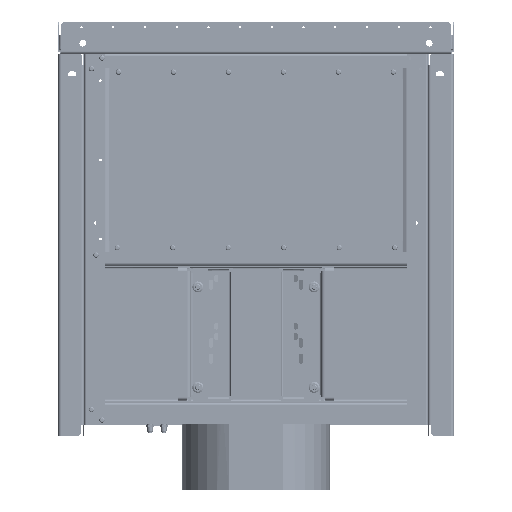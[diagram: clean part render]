
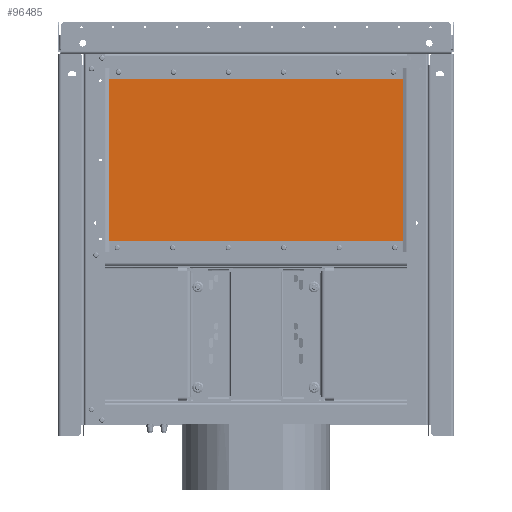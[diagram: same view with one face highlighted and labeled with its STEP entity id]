
A CAD part, front view. The second image highlights one B-rep face of the part: STEP entity #96485.
In plain terms, the highlighted planar face has unit normal (0, -1, 0) as drawn and (0, 1, 0) by its records, which use the part's own axes.
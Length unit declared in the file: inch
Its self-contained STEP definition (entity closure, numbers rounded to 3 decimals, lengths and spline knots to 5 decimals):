
#96370=DIRECTION('',(1.,0.,0.));
#96371=VECTOR('',#96370,15.4);
#96372=CARTESIAN_POINT('',(-7.7,1.93,14.1));
#96373=LINE('',#96372,#96371);
#96374=DIRECTION('',(0.,0.,1.));
#96375=VECTOR('',#96374,28.2);
#96376=CARTESIAN_POINT('',(-7.7,1.93,-14.1));
#96377=LINE('',#96376,#96375);
#96378=DIRECTION('',(-1.,0.,0.));
#96379=VECTOR('',#96378,15.4);
#96380=CARTESIAN_POINT('',(7.7,1.93,-14.1));
#96381=LINE('',#96380,#96379);
#96382=DIRECTION('',(0.,0.,-1.));
#96383=VECTOR('',#96382,28.2);
#96384=CARTESIAN_POINT('',(7.7,1.93,14.1));
#96385=LINE('',#96384,#96383);
#96394=CARTESIAN_POINT('',(-7.7,1.93,14.1));
#96395=CARTESIAN_POINT('',(7.7,1.93,14.1));
#96396=VERTEX_POINT('',#96394);
#96397=VERTEX_POINT('',#96395);
#96398=CARTESIAN_POINT('',(7.7,1.93,-14.1));
#96399=VERTEX_POINT('',#96398);
#96400=CARTESIAN_POINT('',(-7.7,1.93,-14.1));
#96401=VERTEX_POINT('',#96400);
#96474=CARTESIAN_POINT('',(0.,1.93,0.));
#96475=DIRECTION('',(0.,1.,0.));
#96476=DIRECTION('',(1.,0.,0.));
#96477=AXIS2_PLACEMENT_3D('',#96474,#96475,#96476);
#96478=PLANE('',#96477);
#96479=ORIENTED_EDGE('',*,*,#96426,.F.);
#96480=ORIENTED_EDGE('',*,*,#96441,.F.);
#96481=ORIENTED_EDGE('',*,*,#96455,.F.);
#96482=ORIENTED_EDGE('',*,*,#96468,.F.);
#96483=EDGE_LOOP('',(#96479,#96480,#96481,#96482));
#96484=FACE_OUTER_BOUND('',#96483,.F.);
#96485=ADVANCED_FACE('',(#96484),#96478,.T.);
#96426=EDGE_CURVE('',#96396,#96397,#96373,.T.);
#96441=EDGE_CURVE('',#96401,#96396,#96377,.T.);
#96455=EDGE_CURVE('',#96399,#96401,#96381,.T.);
#96468=EDGE_CURVE('',#96397,#96399,#96385,.T.);
